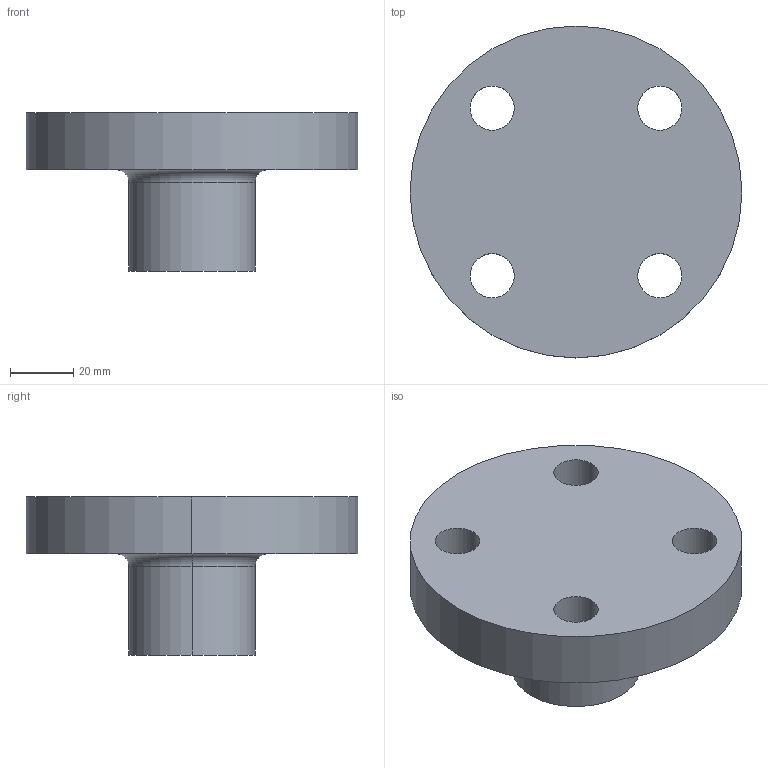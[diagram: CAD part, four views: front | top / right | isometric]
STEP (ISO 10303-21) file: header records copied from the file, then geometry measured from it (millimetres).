
FILE_DESCRIPTION (( 'STEP AP214' ), '1' );
FILE_NAME ('PN40 DN20 Type 21(i) - Type A Face.STEP', '2018-12-29T16:23:33', ( '' ), ( '' ), 'SwSTEP 2.0', 'SolidWorks 2019', '' );
FILE_SCHEMA (( 'AUTOMOTIVE_DESIGN' ));
Length unit declared in the file: millimetre
Products named in the file (1): PN40 DN20 Type 21(i) - Type A Face
Bounding box: 105 x 105 x 50 mm (x, y, z)
Volume: 185441.9 mm3; surface area: 29003.5 mm2
Topology: 1 solids, 1 shells, 17 faces, 40 edges, 26 vertices
Faces by surface type: cylinder 12, plane 3, torus 2
Entity records: 556 total; most frequent: DIRECTION 104, CARTESIAN_POINT 84, ORIENTED_EDGE 80, AXIS2_PLACEMENT_3D 46, EDGE_CURVE 40, CIRCLE 28, EDGE_LOOP 26, VERTEX_POINT 26
